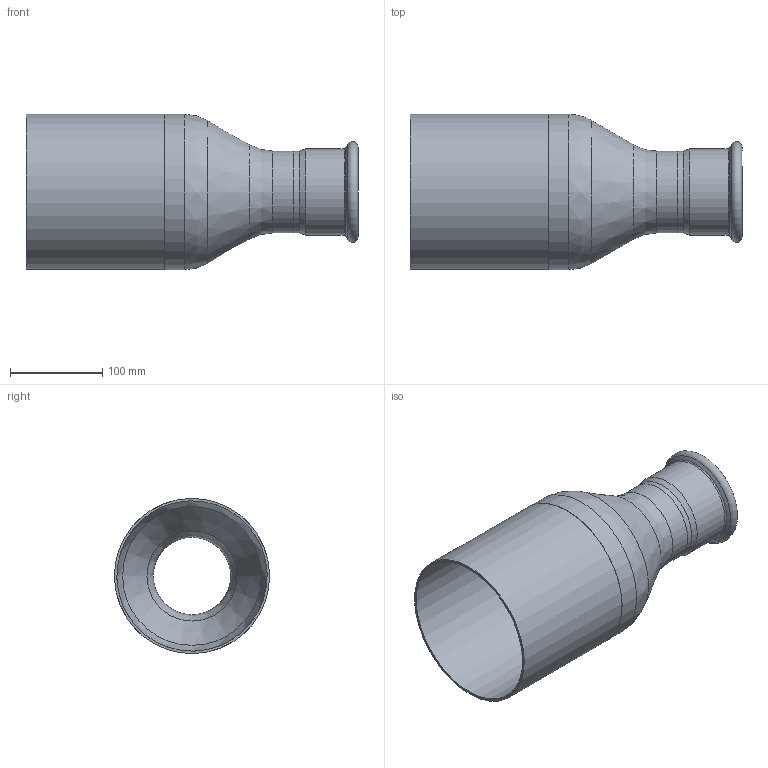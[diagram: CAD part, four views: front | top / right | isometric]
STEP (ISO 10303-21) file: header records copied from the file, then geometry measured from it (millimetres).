
FILE_DESCRIPTION((''),'2;1');
FILE_NAME('G:\Nirosan-Schmiedefeld\Technics\CAD\001 Serie 9.000\169_va\6924316889H(0).stp','2020-10-06T09:56:54',('herberg'),(''),'Autodesk Inventor 2009','Autodesk Inventor 2009','');
FILE_SCHEMA(('AUTOMOTIVE_DESIGN { 1 0 10303 214 1 1 1 1 }'));
Length unit declared in the file: millimetre
Products named in the file (4): 6924316889H(0); 69KG16889P(0); 69FXR16826150P(0); 69HM89P(0)
Assembly tree (3 placements, depth 2):
  6924316889H(0)
    69KG16889P(0)
    69FXR16826150P(0)
    69HM89P(0)
Bounding box: 360 x 168.3 x 168.3 mm (x, y, z)
Volume: 402726.4 mm3; surface area: 326460.5 mm2
Topology: 3 solids, 3 shells, 33 faces, 62 edges, 36 vertices
Faces by surface type: cylinder 11, cone 7, plane 7, bspline 6, torus 2
Full cylindrical faces by diameter (mm): 83.7 x1, 84.9 x1, 88.9 x2, 89.5 x1, 91 x1, 93.5 x1, 163.1 x2, 168.3 x2
Entity records: 963 total; most frequent: CARTESIAN_POINT 298, DIRECTION 134, AXIS2_PLACEMENT_3D 67, ORIENTED_EDGE 66, EDGE_LOOP 66, VERTEX_POINT 33, CIRCLE 33, EDGE_CURVE 33
